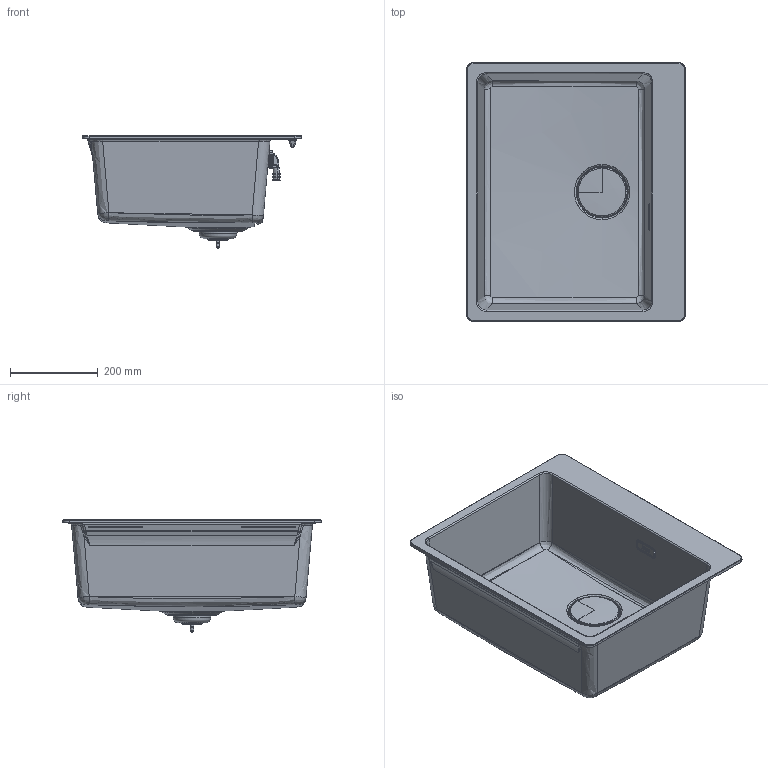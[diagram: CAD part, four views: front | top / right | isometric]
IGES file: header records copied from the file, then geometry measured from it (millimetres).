
Global section: file name: F:\_CONVERSIONE_CAD_2024_2025\_2024\03_3D kits new\Sinks\MARIS\114.0706.835 3D001_Sinks_Maris_MRG-610-54-FTL\3D001_Sinks_Maris_MRG-610-54-FTL.igs; native system: Rhinoceros ( Jun 11 2024 ); preprocessor: Trout Lake IGES 012 Jun 11 2024; date: 240731.111752; units: millimetre
Bounding box: 500 x 590 x 256.58 mm (x, y, z)
Surface area: 1316088.2 mm2 (no closed solid volume)
Topology: 0 solids, 0 shells, 3501 faces, 20306 edges, 20242 vertices
Faces by surface type: bspline 3501
